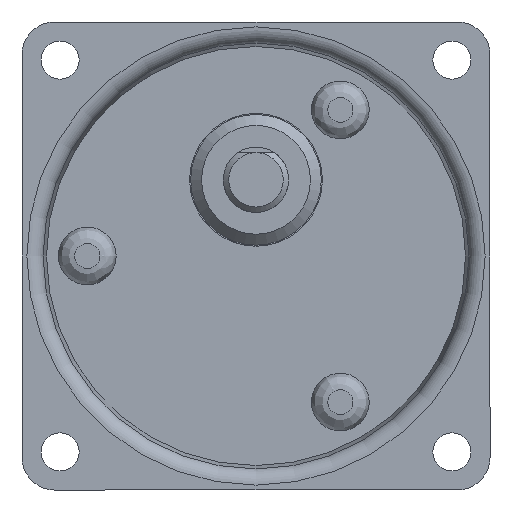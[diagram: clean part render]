
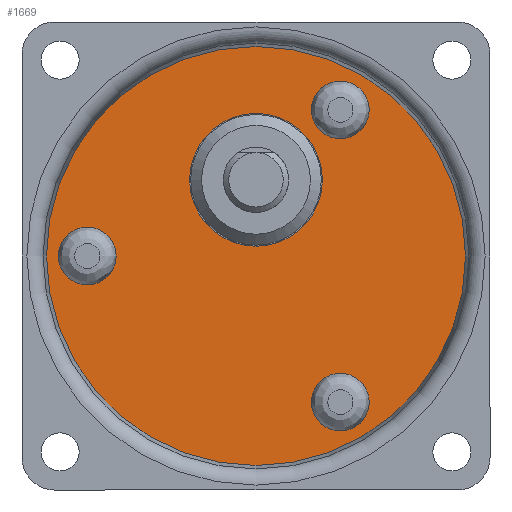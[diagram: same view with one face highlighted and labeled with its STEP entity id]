
A CAD part, front view. The second image highlights one B-rep face of the part: STEP entity #1669.
In plain terms, the highlighted planar face has unit normal (0, -1, 0).
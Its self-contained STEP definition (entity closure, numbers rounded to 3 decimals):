
#1156=CARTESIAN_POINT('',(6.425,3.5,-11.128));
#1157=VERTEX_POINT('',#1156);
#1158=CARTESIAN_POINT('',(7.75,3.5,-13.423));
#1159=DIRECTION('',(0.0,1.0,0.0));
#1160=DIRECTION('',(0.5,0.0,-0.866));
#1161=AXIS2_PLACEMENT_3D('',#1158,#1159,#1160);
#1162=CIRCLE('',#1161,2.65);
#1163=EDGE_CURVE('',#1157,#1157,#1162,.T.);
#1261=CARTESIAN_POINT('',(6.425,3.5,11.128));
#1262=VERTEX_POINT('',#1261);
#1263=CARTESIAN_POINT('',(7.75,3.5,13.423));
#1264=DIRECTION('',(0.0,1.,0.0));
#1265=DIRECTION('',(0.5,0.0,0.866));
#1266=AXIS2_PLACEMENT_3D('',#1263,#1264,#1265);
#1267=CIRCLE('',#1266,2.65);
#1268=EDGE_CURVE('',#1262,#1262,#1267,.T.);
#1366=CARTESIAN_POINT('',(-12.85,3.5,0.));
#1367=VERTEX_POINT('',#1366);
#1368=CARTESIAN_POINT('',(-15.5,3.5,0.0));
#1369=DIRECTION('',(0.0,1.0,0.0));
#1370=DIRECTION('',(-1.0,0.0,0.0));
#1371=AXIS2_PLACEMENT_3D('',#1368,#1369,#1370);
#1372=CIRCLE('',#1371,2.65);
#1373=EDGE_CURVE('',#1367,#1367,#1372,.T.);
#1406=CARTESIAN_POINT('',(6.1,3.5,7.));
#1407=VERTEX_POINT('',#1406);
#1408=CARTESIAN_POINT('',(0.0,3.5,7.));
#1409=DIRECTION('',(0.0,1.0,0.0));
#1410=DIRECTION('',(-1.0,0.0,0.0));
#1411=AXIS2_PLACEMENT_3D('',#1408,#1409,#1410);
#1412=CIRCLE('',#1411,6.1);
#1413=EDGE_CURVE('',#1407,#1407,#1412,.T.);
#1511=CARTESIAN_POINT('',(0.,3.5,-19.25));
#1512=VERTEX_POINT('',#1511);
#1513=CARTESIAN_POINT('',(0.0,3.5,0.0));
#1514=DIRECTION('',(0.0,-1.0,0.0));
#1515=DIRECTION('',(0.0,0.0,1.0));
#1516=AXIS2_PLACEMENT_3D('',#1513,#1514,#1515);
#1517=CIRCLE('',#1516,19.25);
#1518=EDGE_CURVE('',#1512,#1512,#1517,.F.);
#1649=CARTESIAN_POINT('',(0.0,3.5,10.059));
#1650=DIRECTION('',(0.0,1.0,0.0));
#1651=DIRECTION('',(0.0,0.0,1.0));
#1652=AXIS2_PLACEMENT_3D('',#1649,#1650,#1651);
#1653=PLANE('',#1652);
#1654=ORIENTED_EDGE('',*,*,#1518,.F.);
#1655=EDGE_LOOP('',(#1654));
#1656=FACE_OUTER_BOUND('',#1655,.T.);
#1657=ORIENTED_EDGE('',*,*,#1163,.T.);
#1658=EDGE_LOOP('',(#1657));
#1659=FACE_BOUND('',#1658,.T.);
#1660=ORIENTED_EDGE('',*,*,#1268,.T.);
#1661=EDGE_LOOP('',(#1660));
#1662=FACE_BOUND('',#1661,.T.);
#1663=ORIENTED_EDGE('',*,*,#1373,.T.);
#1664=EDGE_LOOP('',(#1663));
#1665=FACE_BOUND('',#1664,.T.);
#1666=ORIENTED_EDGE('',*,*,#1413,.T.);
#1667=EDGE_LOOP('',(#1666));
#1668=FACE_BOUND('',#1667,.T.);
#1669=ADVANCED_FACE('',(#1656,#1659,#1662,#1665,#1668),#1653,.F.);
